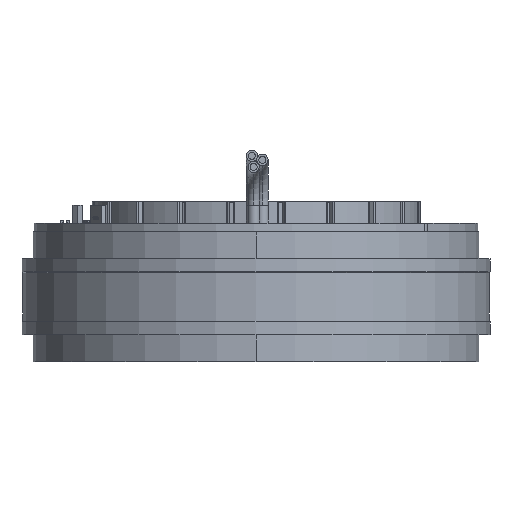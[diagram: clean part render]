
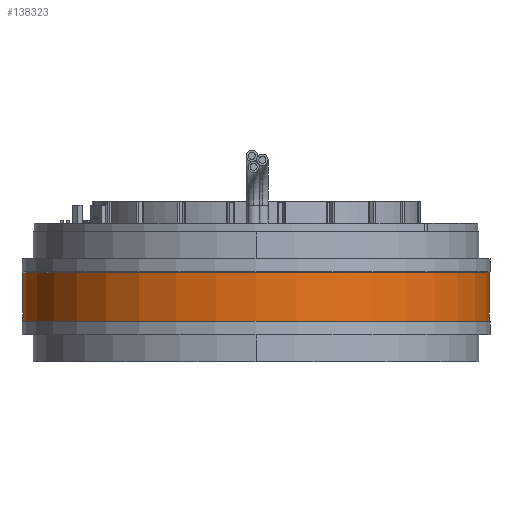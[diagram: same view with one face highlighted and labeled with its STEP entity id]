
A CAD part, front view. The second image highlights one B-rep face of the part: STEP entity #138323.
In plain terms, the highlighted cylindrical face has radius 42.349 mm (diameter 84.698 mm), a partial arc.
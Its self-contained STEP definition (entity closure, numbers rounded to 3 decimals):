
#4181 = DIRECTION ( 'NONE',  ( 0., 0., -1. ) ) ;
#6376 = CIRCLE ( 'NONE', #13788, 42.349 ) ;
#13788 = AXIS2_PLACEMENT_3D ( 'NONE', #123512, #170964, #104741 ) ;
#13913 = CARTESIAN_POINT ( 'NONE',  ( -42.349, 0., 0. ) ) ;
#41608 = DIRECTION ( 'NONE',  ( 0., 0., -1. ) ) ;
#52962 = VERTEX_POINT ( 'NONE', #124470 ) ;
#57016 = EDGE_CURVE ( 'NONE', #223123, #187283, #200302, .T. ) ;
#65433 = VERTEX_POINT ( 'NONE', #204911 ) ;
#67551 = CYLINDRICAL_SURFACE ( 'NONE', #134028, 42.349 ) ;
#73717 = CARTESIAN_POINT ( 'NONE',  ( 42.349, 0., 4.4 ) ) ;
#90626 = EDGE_CURVE ( 'NONE', #65433, #52962, #176023, .T. ) ;
#92449 = CIRCLE ( 'NONE', #141239, 42.349 ) ;
#101617 = EDGE_CURVE ( 'NONE', #187283, #52962, #6376, .T. ) ;
#103975 = FACE_OUTER_BOUND ( 'NONE', #114587, .T. ) ;
#104741 = DIRECTION ( 'NONE',  ( -1., 0., 0. ) ) ;
#105126 = DIRECTION ( 'NONE',  ( -1., 0., 0. ) ) ;
#114587 = EDGE_LOOP ( 'NONE', ( #229235, #138857, #223313, #198704 ) ) ;
#120462 = DIRECTION ( 'NONE',  ( 0., 0., -1. ) ) ;
#121943 = DIRECTION ( 'NONE',  ( 0., 0., -1. ) ) ;
#123512 = CARTESIAN_POINT ( 'NONE',  ( 0., 0., -4.4 ) ) ;
#124470 = CARTESIAN_POINT ( 'NONE',  ( -42.349, 0., -4.4 ) ) ;
#128664 = CARTESIAN_POINT ( 'NONE',  ( 0., 0., 4.4 ) ) ;
#134028 = AXIS2_PLACEMENT_3D ( 'NONE', #230918, #120462, #105126 ) ;
#138323 = ADVANCED_FACE ( 'NONE', ( #103975 ), #67551, .T. ) ;
#138857 = ORIENTED_EDGE ( 'NONE', *, *, #206713, .T. ) ;
#141239 = AXIS2_PLACEMENT_3D ( 'NONE', #128664, #4181, #200395 ) ;
#167780 = VECTOR ( 'NONE', #121943, 1000. ) ;
#170964 = DIRECTION ( 'NONE',  ( 0., 0., -1. ) ) ;
#176023 = LINE ( 'NONE', #13913, #167780 ) ;
#180337 = CARTESIAN_POINT ( 'NONE',  ( 42.349, 0., 0. ) ) ;
#187283 = VERTEX_POINT ( 'NONE', #217778 ) ;
#189167 = VECTOR ( 'NONE', #41608, 1000. ) ;
#198704 = ORIENTED_EDGE ( 'NONE', *, *, #101617, .F. ) ;
#200302 = LINE ( 'NONE', #180337, #189167 ) ;
#200395 = DIRECTION ( 'NONE',  ( -1., 0., 0. ) ) ;
#204911 = CARTESIAN_POINT ( 'NONE',  ( -42.349, 0., 4.4 ) ) ;
#206713 = EDGE_CURVE ( 'NONE', #223123, #65433, #92449, .T. ) ;
#217778 = CARTESIAN_POINT ( 'NONE',  ( 42.349, 0., -4.4 ) ) ;
#223123 = VERTEX_POINT ( 'NONE', #73717 ) ;
#223313 = ORIENTED_EDGE ( 'NONE', *, *, #90626, .T. ) ;
#229235 = ORIENTED_EDGE ( 'NONE', *, *, #57016, .F. ) ;
#230918 = CARTESIAN_POINT ( 'NONE',  ( 0., 0., 0. ) ) ;
